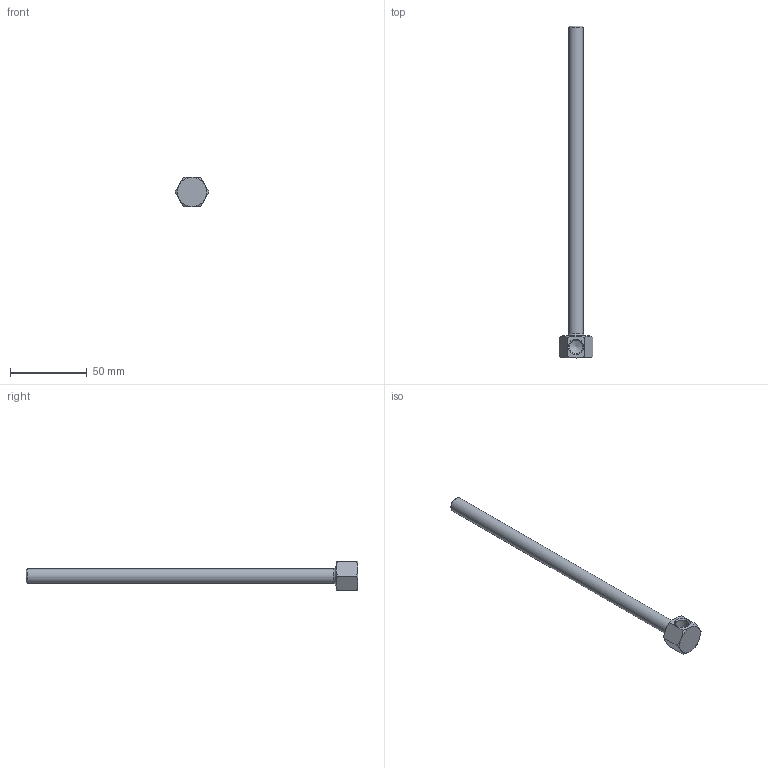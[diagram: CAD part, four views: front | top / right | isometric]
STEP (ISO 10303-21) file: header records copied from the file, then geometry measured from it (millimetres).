
FILE_DESCRIPTION(/* description */ (''),/* implementation_level */ '2;1');
FILE_NAME(/* name */ 'C:/Users/drich/Desktop/18B-8-1_2 v1.step',/* time_stamp */ '2019-12-29T15:21:09-06:00',/* author */ (''),/* organization */ (''),/* preprocessor_version */ 'ST-DEVELOPER v18',/* originating_system */ 'Autodesk Translation Framework v8.12.0.6',/* authorisation */ '');
FILE_SCHEMA (('AUTOMOTIVE_DESIGN { 1 0 10303 214 3 1 1 }'));
Length unit declared in the file: inch
Products named in the file (1): 18B-8-1_2
Bounding box: 22 x 215.9 x 19.05 mm (x, y, z)
Volume: 11860.5 mm3; surface area: 11959.8 mm2
Topology: 1 solids, 1 shells, 19 faces, 48 edges, 31 vertices
Faces by surface type: plane 9, cone 6, cylinder 3, torus 1
Full cylindrical faces by diameter (mm): 6.35 x1, 8.707 x1, 9.621 x1
Entity records: 633 total; most frequent: CARTESIAN_POINT 159, ORIENTED_EDGE 94, DIRECTION 89, EDGE_CURVE 47, AXIS2_PLACEMENT_3D 37, VERTEX_POINT 31, EDGE_LOOP 22, FACE_OUTER_BOUND 19
